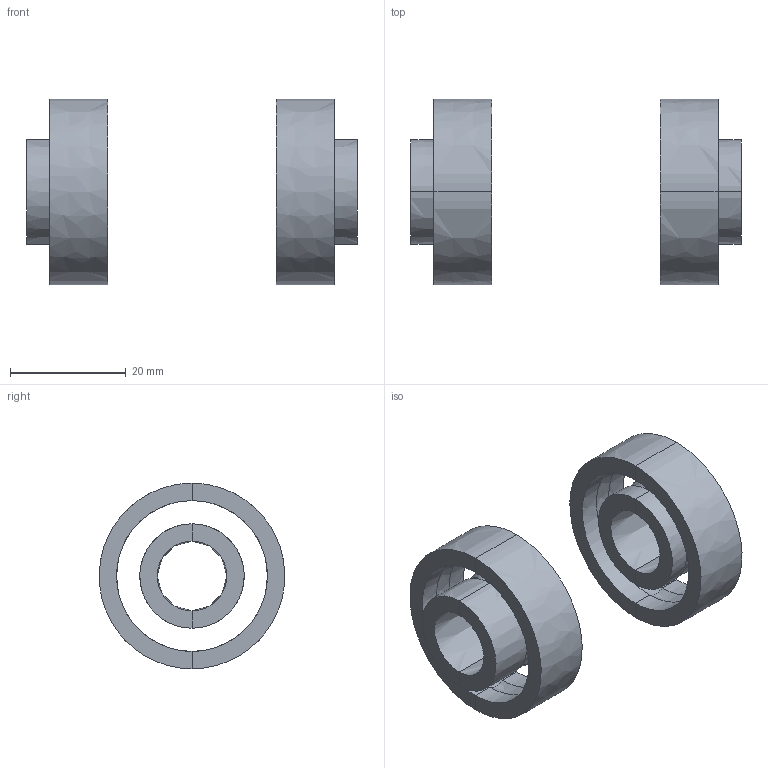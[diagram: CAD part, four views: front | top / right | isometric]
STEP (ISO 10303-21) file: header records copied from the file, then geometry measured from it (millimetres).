
FILE_DESCRIPTION (( 'STEP AP214' ), '1' );
FILE_NAME ('HP-100WJ-20.STEP', '2020-07-04T08:00:29', ( '' ), ( '' ), 'SwSTEP 2.0', 'SolidWorks 2010', '' );
FILE_SCHEMA (( 'AUTOMOTIVE_DESIGN' ));
Length unit declared in the file: millimetre
Products named in the file (1): HP-100WJ-20
Bounding box: 57 x 32 x 32 mm (x, y, z)
Volume: 9119.5 mm3; surface area: 8001.8 mm2
Topology: 4 solids, 4 shells, 48 faces, 96 edges, 48 vertices
Faces by surface type: bspline 48
Entity records: 6905 total; most frequent: CARTESIAN_POINT 6121, ORIENTED_EDGE 192, EDGE_CURVE 96, B_SPLINE_CURVE_WITH_KNOTS 56, ADVANCED_FACE 48, VERTEX_POINT 48, FACE_OUTER_BOUND 48, B_SPLINE_SURFACE_WITH_KNOTS 48
